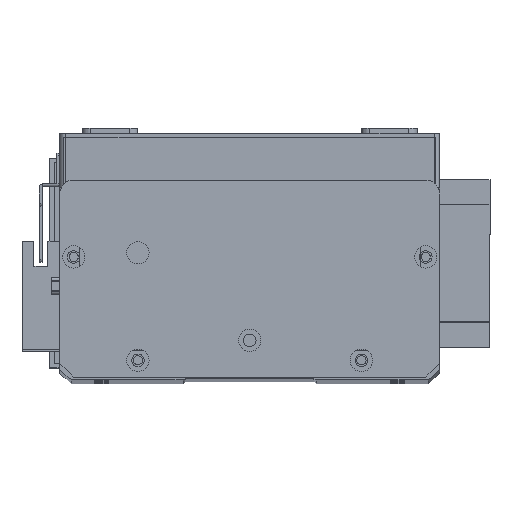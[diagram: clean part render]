
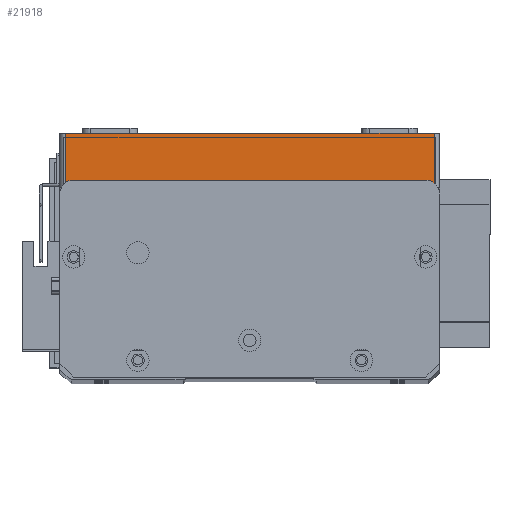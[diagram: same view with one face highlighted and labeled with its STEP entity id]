
A CAD part, top view. The second image highlights one B-rep face of the part: STEP entity #21918.
In plain terms, the highlighted planar face has unit normal (0, 0, 1) as drawn and (0, -1, 0) by its records, which use the part's own axes.
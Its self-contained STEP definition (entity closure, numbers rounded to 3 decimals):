
#134 = LINE ( 'NONE', #19418, #23095 ) ;
#148 = EDGE_CURVE ( 'NONE', #25784, #23527, #21114, .T. ) ;
#1639 = VERTEX_POINT ( 'NONE', #9164 ) ;
#2262 = CARTESIAN_POINT ( 'NONE',  ( 134., 0., 19.5 ) ) ;
#3352 = VECTOR ( 'NONE', #14287, 1000. ) ;
#4287 = VECTOR ( 'NONE', #18382, 1000. ) ;
#4695 = EDGE_CURVE ( 'NONE', #23527, #1639, #134, .T. ) ;
#4987 = LINE ( 'NONE', #27186, #4287 ) ;
#5315 = DIRECTION ( 'NONE',  ( 0., 1., 0. ) ) ;
#6060 = FACE_OUTER_BOUND ( 'NONE', #13931, .T. ) ;
#6751 = VECTOR ( 'NONE', #24808, 1000. ) ;
#7359 = ORIENTED_EDGE ( 'NONE', *, *, #4695, .T. ) ;
#7510 = AXIS2_PLACEMENT_3D ( 'NONE', #16417, #5315, #20875 ) ;
#9164 = CARTESIAN_POINT ( 'NONE',  ( 134., 0., 0. ) ) ;
#9261 = CARTESIAN_POINT ( 'NONE',  ( 134., 0., 19.5 ) ) ;
#9926 = CARTESIAN_POINT ( 'NONE',  ( 2., 0., 19.5 ) ) ;
#10172 = ORIENTED_EDGE ( 'NONE', *, *, #148, .T. ) ;
#10590 = DIRECTION ( 'NONE',  ( 1., 0., 0. ) ) ;
#11342 = EDGE_CURVE ( 'NONE', #25784, #16399, #4987, .T. ) ;
#12685 = LINE ( 'NONE', #9261, #6751 ) ;
#13931 = EDGE_LOOP ( 'NONE', ( #27467, #10172, #7359, #14301 ) ) ;
#14287 = DIRECTION ( 'NONE',  ( 0., 0., -1. ) ) ;
#14301 = ORIENTED_EDGE ( 'NONE', *, *, #28477, .T. ) ;
#16399 = VERTEX_POINT ( 'NONE', #2262 ) ;
#16417 = CARTESIAN_POINT ( 'NONE',  ( 0., 0., 19.5 ) ) ;
#17890 = CARTESIAN_POINT ( 'NONE',  ( 2., 0., 0. ) ) ;
#18382 = DIRECTION ( 'NONE',  ( 1., 0., 0. ) ) ;
#19051 = CARTESIAN_POINT ( 'NONE',  ( 2., 0., 19.5 ) ) ;
#19418 = CARTESIAN_POINT ( 'NONE',  ( 0., 0., 0. ) ) ;
#20875 = DIRECTION ( 'NONE',  ( 0., 0., 1. ) ) ;
#21114 = LINE ( 'NONE', #19051, #3352 ) ;
#21918 = ADVANCED_FACE ( 'NONE', ( #6060 ), #23007, .F. ) ;
#23007 = PLANE ( 'NONE',  #7510 ) ;
#23095 = VECTOR ( 'NONE', #10590, 1000. ) ;
#23527 = VERTEX_POINT ( 'NONE', #17890 ) ;
#24808 = DIRECTION ( 'NONE',  ( 0., 0., 1. ) ) ;
#25784 = VERTEX_POINT ( 'NONE', #9926 ) ;
#27186 = CARTESIAN_POINT ( 'NONE',  ( 0., 0., 19.5 ) ) ;
#27467 = ORIENTED_EDGE ( 'NONE', *, *, #11342, .F. ) ;
#28477 = EDGE_CURVE ( 'NONE', #1639, #16399, #12685, .T. ) ;
